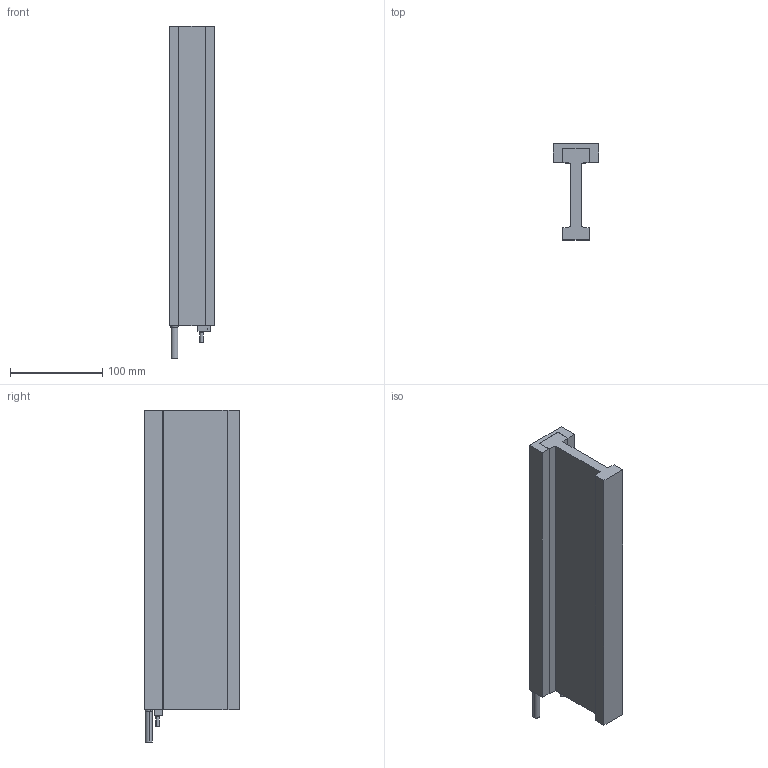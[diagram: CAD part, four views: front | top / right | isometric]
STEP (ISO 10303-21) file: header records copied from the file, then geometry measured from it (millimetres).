
FILE_DESCRIPTION (( 'STEP AP214' ), '1' );
FILE_NAME ('DX65F-C5.step', '2022-09-22T03:37:35', ( '' ), ( '' ), 'SwSTEP 2.0', 'SolidWorks 2020', '' );
FILE_SCHEMA (( 'AUTOMOTIVE_DESIGN' ));
Length unit declared in the file: millimetre
Products named in the file (1): DX65F-C5
Bounding box: 49 x 104 x 360 mm (x, y, z)
Volume: 698128.6 mm3; surface area: 157268.2 mm2
Topology: 7 solids, 7 shells, 182 faces, 420 edges, 245 vertices
Faces by surface type: plane 80, cylinder 56, cone 38, torus 8
Entity records: 7054 total; most frequent: DIRECTION 894, CARTESIAN_POINT 886, ORIENTED_EDGE 780, EDGE_CURVE 390, AXIS2_PLACEMENT_3D 325, VERTEX_POINT 245, LINE 244, VECTOR 244
